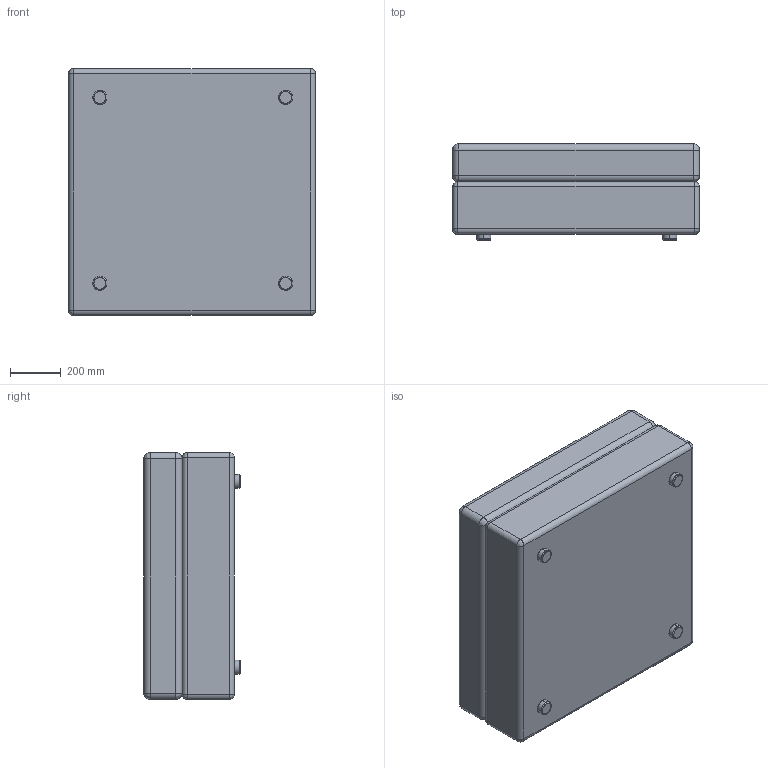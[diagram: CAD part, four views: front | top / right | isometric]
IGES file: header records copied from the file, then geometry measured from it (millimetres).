
Start section: SolidWorks IGES file using NURBS representation for surfaces
Global section: file name: G:\VICCARBE\PRODUCTOS\18-BERRY\04-MODELADOS (PLANOS)\SOLIDWORKS\ELEMENTOS\VICCARBE_Berry_B8.IGS; native system: SolidWorks 2009; preprocessor: SolidWorks 2009; author: RUBEN; date: 110902.094041; units: millimetre
Bounding box: 970 x 378 x 970 mm (x, y, z)
Surface area: 5010172.1 mm2 (no closed solid volume)
Topology: 0 solids, 0 shells, 76 faces, 784 edges, 768 vertices
Faces by surface type: bspline 76
